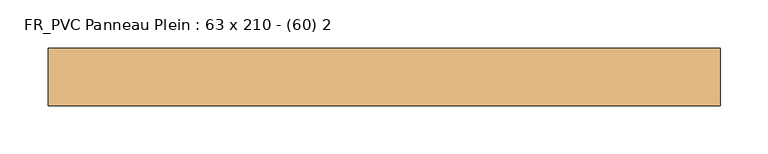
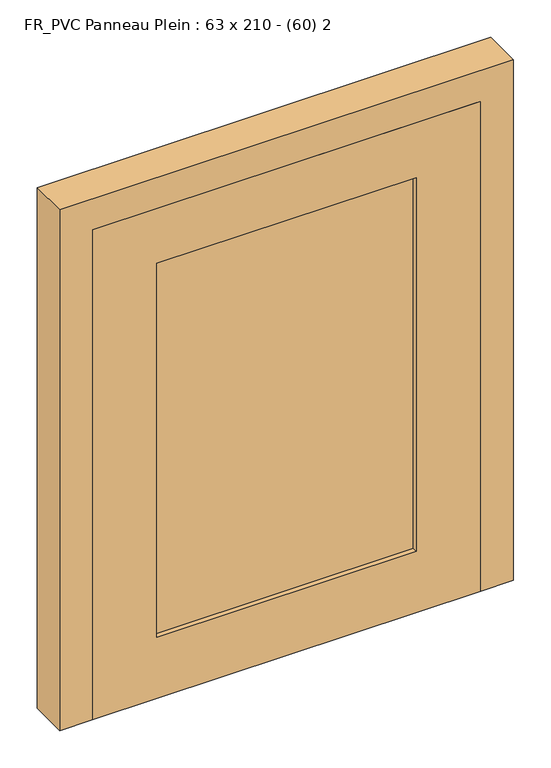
"""IFC4 building model written with IfcOpenShell, lengths in millimetres: door geometry, FR_PVC Panneau Plein : 63 x 210 - (60) 2."""

from ifc_helpers import new_model, si_unit, origin, place, context, project, spatial, faceted_brep, source, transform, mapped, element, save


def fr_pvc_panneau_plein_63_x_210_60_2_2560e39d(model_context):
    return source(origin(), model_context, "Body", "Brep", [
        faceted_brep([(-350.0, -88.7935702, 0.0), (-350.0, -28.7935702, 0.0), (-285.0, -28.7935702, 0.0), (-285.0, -48.7935702, 0.0), (-300.0, -48.7935702, 0.0), (-300.0, -88.7935702, 0.0), (-350.0, -88.7935702, 850.0), (-350.0, -28.7935702, 850.0), (350.0, -28.7935702, 850.0), (350.0, -28.7935702, 0.0), (285.0, -28.7935702, 0.0), (285.0, -28.7935702, 785.0), (-285.0, -28.7935702, 785.0), (-285.0, -48.7935702, 785.0), (285.0, -48.7935702, 785.0), (285.0, -48.7935702, 0.0), (300.0, -48.7935702, 0.0), (300.0, -48.7935702, 800.0), (-300.0, -48.7935702, 800.0), (-300.0, -88.7935702, 800.0), (300.0, -88.7935702, 800.0), (300.0, -88.7935702, 0.0), (350.0, -88.7935702, 0.0), (350.0, -88.7935702, 850.0)], [[[0, 1, 2, 3, 4, 5]], [[1, 0, 6, 7]], [[2, 1, 7, 8, 9, 10, 11, 12]], [[3, 2, 12, 13]], [[4, 3, 13, 14, 15, 16, 17, 18]], [[5, 4, 18, 19]], [[0, 5, 19, 20, 21, 22, 23, 6]], [[9, 8, 23, 22]], [[10, 9, 22, 21, 16, 15]], [[11, 10, 15, 14]], [[17, 16, 21, 20]], [[7, 6, 23, 8]], [[12, 11, 14, 13]], [[18, 17, 20, 19]]]),
        faceted_brep([(-300.0, -88.7935702, 800.0), (-300.0, -88.7935702, 0.0), (300.0, -88.7935702, 0.0), (300.0, -88.7935702, 800.0), (200.0, -88.7935702, 710.0), (200.0, -88.7935702, 100.0), (-200.0, -88.7935702, 100.0), (-200.0, -88.7935702, 710.0), (-300.0, -48.7935702, 800.0), (300.0, -48.7935702, 800.0), (300.0, -48.7935702, 0.0), (-300.0, -48.7935702, 0.0), (-200.0, -48.7935702, 710.0), (-200.0, -48.7935702, 100.0), (200.0, -48.7935702, 100.0), (200.0, -48.7935702, 710.0), (200.0, -80.7935702, 710.0), (-200.0, -80.7935702, 710.0), (-200.0, -80.7935702, 100.0), (200.0, -80.7935702, 100.0), (-200.0, -56.7935702, 710.0), (200.0, -56.7935702, 710.0), (200.0, -56.7935702, 100.0), (-200.0, -56.7935702, 100.0)], [[[0, 1, 2, 3], [4, 5, 6, 7]], [[8, 9, 10, 11], [12, 13, 14, 15]], [[1, 0, 8, 11]], [[2, 1, 11, 10]], [[3, 2, 10, 9]], [[0, 3, 9, 8]], [[16, 17, 18, 19]], [[16, 19, 5, 4]], [[19, 18, 6, 5]], [[18, 17, 7, 6]], [[17, 16, 4, 7]], [[20, 21, 22, 23]], [[20, 23, 13, 12]], [[23, 22, 14, 13]], [[22, 21, 15, 14]], [[21, 20, 12, 15]]]),
    ])


if __name__ == "__main__":
    model = new_model("IFC4")
    model_context = context("Model", 3, world=origin())
    ifc_project = project(units=[si_unit("LENGTHUNIT", "METRE", prefix="MILLI")], contexts=[model_context])
    site = spatial("IfcSite", under=ifc_project)
    building = spatial("IfcBuilding", under=site)
    placement = place(None, origin())
    fr_pvc_panneau_plein_63_x_210_60_2_shape = fr_pvc_panneau_plein_63_x_210_60_2_2560e39d(model_context)
    element("IfcDoor", 1, ObjectType="FR_PVC Panneau Plein : 63 x 210 - (60) 2", at=placement, inside=building, context=model_context, shape_type="MappedRepresentation", body=[
        mapped(fr_pvc_panneau_plein_63_x_210_60_2_shape, transform((0.0, 0.0, 0.0), x_axis=(1.0, 0.0, 0.0), y_axis=(0.0, 1.0, 0.0), z_axis=(0.0, 0.0, 1.0))),
    ])
    save(model, "model.ifc")
